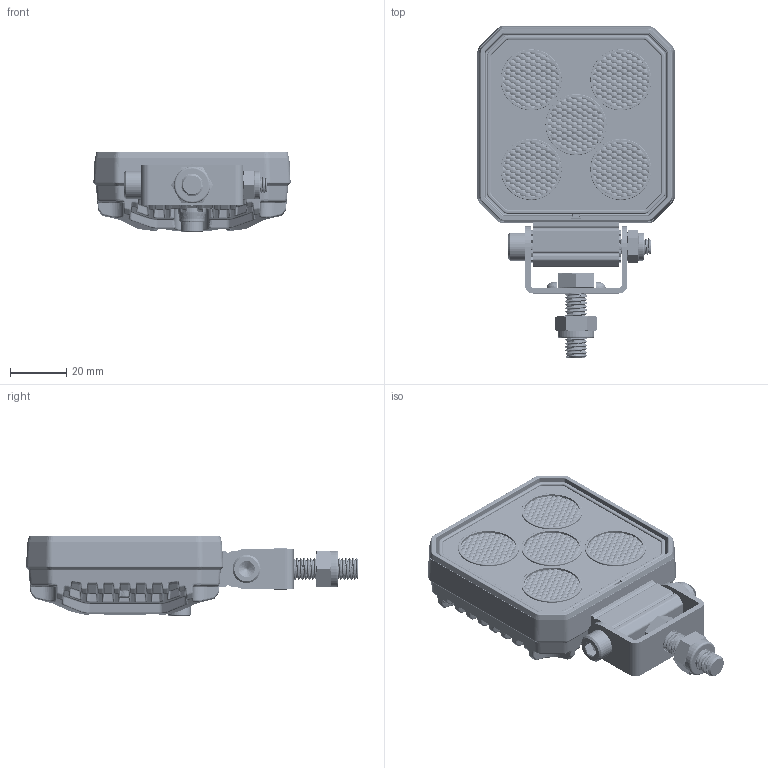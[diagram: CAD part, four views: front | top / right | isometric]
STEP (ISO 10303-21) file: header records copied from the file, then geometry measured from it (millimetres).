
FILE_DESCRIPTION((''),'2;1');
FILE_NAME('8005蚾饜芞_ASM','2022-10-31T',('Administrator'),(''),'CREO PARAMETRIC BY PTC INC, 2018070','CREO PARAMETRIC BY PTC INC, 2018070','');
FILE_SCHEMA(('CONFIG_CONTROL_DESIGN'));
Products named in the file (12): 8005綴褲A遴3_0; 8005蟀极醱欶A遴3_0; 0_5线径通用胶塞1_0; 胶塞1_0; ST2_9X6十字盘头自攻螺丝; 1310_1410U倰盓殤1_0; M6X45内六角圆柱头螺丝; M6鞠褒滅侂蹟譫; M8X25俋鞠褒蹟佪; M8鞠褒滅侂蹟譫; 8005饜璃婦蚾饜芞_ASM; 8005蚾饜芞_ASM
Assembly tree (12 placements, depth 3):
  8005蚾饜芞_ASM
    8005綴褲A遴3_0
    8005蟀极醱欶A遴3_0
    0_5线径通用胶塞1_0
    胶塞1_0
    ST2_9X6十字盘头自攻螺丝  x2
    8005饜璃婦蚾饜芞_ASM
      1310_1410U倰盓殤1_0
      M6X45内六角圆柱头螺丝
      M6鞠褒滅侂蹟譫
      M8X25俋鞠褒蹟佪
      M8鞠褒滅侂蹟譫
Bounding box: 70.38 x 118.44 x 28.5 mm (x, y, z)
Volume: 69097.8 mm3; surface area: 57024.1 mm2
Topology: 13 solids, 15 shells, 5508 faces, 14096 edges, 8786 vertices
Faces by surface type: plane 1842, bspline 1702, cylinder 1187, cone 294, extrusion 276, torus 123, sphere 84
Entity records: 272427 total; most frequent: CARTESIAN_POINT 155945, ORIENTED_EDGE 27860, DIRECTION 18153, EDGE_CURVE 13930, VERTEX_POINT 8684, VECTOR 6215, AXIS2_PLACEMENT_3D 5969, LINE 5941
